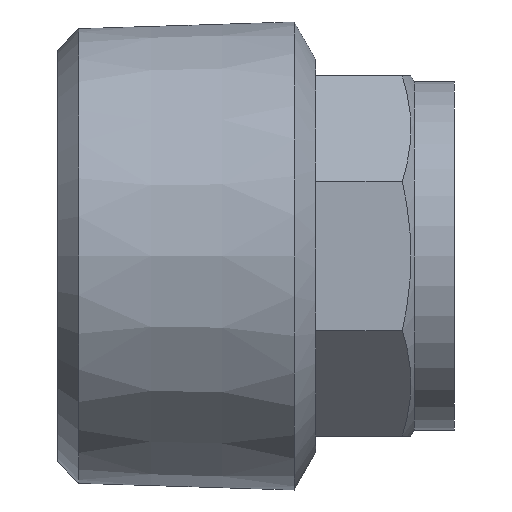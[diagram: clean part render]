
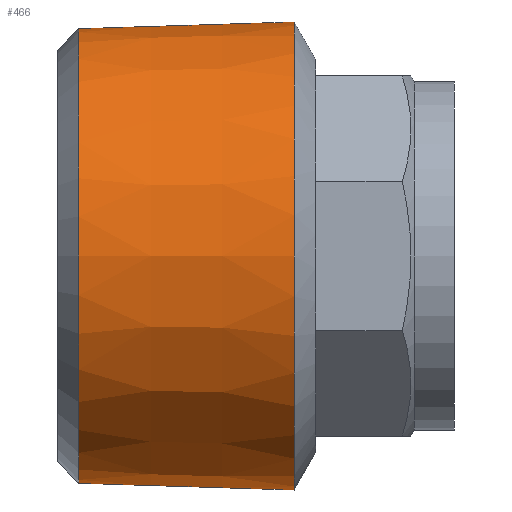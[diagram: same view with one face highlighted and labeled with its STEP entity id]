
A CAD part, front view. The second image highlights one B-rep face of the part: STEP entity #466.
In plain terms, the highlighted conical face has half-angle 1.79 degrees and reference radius 16.566 mm.
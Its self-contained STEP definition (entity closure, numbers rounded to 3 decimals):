
#415=CARTESIAN_POINT('',(1.499,16.347,0.));
#416=VERTEX_POINT('',#415);
#417=CARTESIAN_POINT('',(1.499,0.0,0.));
#418=DIRECTION('',(-1.0,0.0,0.0));
#419=DIRECTION('',(0.0,-1.0,0.0));
#420=AXIS2_PLACEMENT_3D('',#417,#418,#419);
#421=CIRCLE('',#420,16.347);
#422=EDGE_CURVE('',#416,#416,#421,.T.);
#447=CARTESIAN_POINT('',(8.5,0.0,0.0));
#448=DIRECTION('',(1.0,0.0,0.0));
#449=DIRECTION('',(0.0,1.0,0.0));
#450=AXIS2_PLACEMENT_3D('',#447,#448,#449);
#451=CONICAL_SURFACE('',#450,16.566,1.79);
#452=CARTESIAN_POINT('',(17.,16.831,0.0));
#453=VERTEX_POINT('',#452);
#454=CARTESIAN_POINT('',(17.,0.0,0.0));
#455=DIRECTION('',(1.0,0.0,0.0));
#456=DIRECTION('',(0.0,1.0,0.0));
#457=AXIS2_PLACEMENT_3D('',#454,#455,#456);
#458=CIRCLE('',#457,16.831);
#459=EDGE_CURVE('',#453,#453,#458,.T.);
#460=ORIENTED_EDGE('',*,*,#459,.F.);
#461=EDGE_LOOP('',(#460));
#462=FACE_OUTER_BOUND('',#461,.T.);
#463=ORIENTED_EDGE('',*,*,#422,.F.);
#464=EDGE_LOOP('',(#463));
#465=FACE_BOUND('',#464,.T.);
#466=ADVANCED_FACE('',(#462,#465),#451,.T.);
